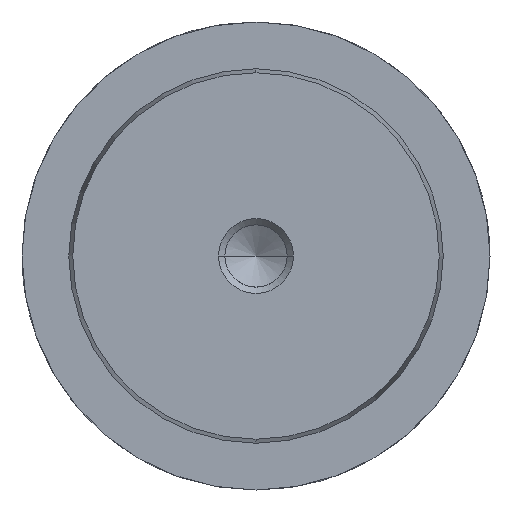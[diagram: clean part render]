
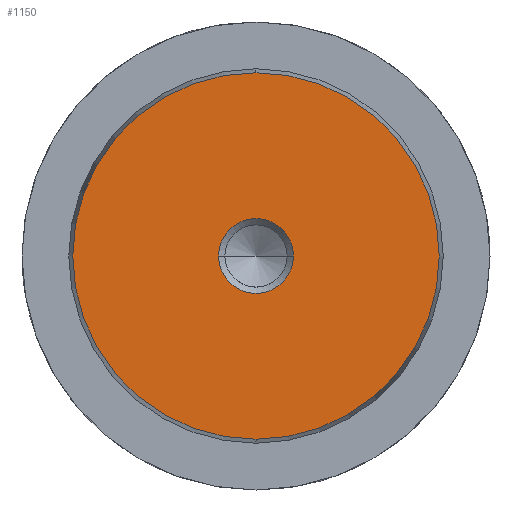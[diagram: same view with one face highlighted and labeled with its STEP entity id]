
A CAD part, left-side view. The second image highlights one B-rep face of the part: STEP entity #1150.
In plain terms, the highlighted planar face has unit normal (-1, 0, 0).
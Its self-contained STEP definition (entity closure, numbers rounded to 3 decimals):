
#1064=CARTESIAN_POINT('Vertex',(0.,0.,-19.578)) ;
#1067=CARTESIAN_POINT('Axis2P3D Location',(0.,0.,0.)) ;
#1071=CARTESIAN_POINT('Vertex',(0.,19.578,0.)) ;
#1074=CARTESIAN_POINT('Axis2P3D Location',(0.,0.,0.)) ;
#1078=CARTESIAN_POINT('Vertex',(0.,0.,19.578)) ;
#1100=CARTESIAN_POINT('Axis2P3D Location',(0.,0.,0.)) ;
#1104=CARTESIAN_POINT('Vertex',(0.,-19.578,0.)) ;
#1107=CARTESIAN_POINT('Axis2P3D Location',(0.,0.,0.)) ;
#1121=CARTESIAN_POINT('Axis2P3D Location',(0.,0.,0.)) ;
#1132=CARTESIAN_POINT('Axis2P3D Location',(0.,0.,0.)) ;
#1136=CARTESIAN_POINT('Vertex',(0.,4.,0.)) ;
#1138=CARTESIAN_POINT('Vertex',(0.,-4.,0.)) ;
#1141=CARTESIAN_POINT('Axis2P3D Location',(0.,0.,0.)) ;
#1068=DIRECTION('Axis2P3D Direction',(1.,0.,-0.)) ;
#1075=DIRECTION('Axis2P3D Direction',(1.,0.,-0.)) ;
#1101=DIRECTION('Axis2P3D Direction',(1.,0.,-0.)) ;
#1108=DIRECTION('Axis2P3D Direction',(1.,0.,-0.)) ;
#1122=DIRECTION('Axis2P3D Direction',(1.,0.,-0.)) ;
#1123=DIRECTION('Axis2P3D XDirection',(-0.,0.,-1.)) ;
#1133=DIRECTION('Axis2P3D Direction',(1.,0.,-0.)) ;
#1142=DIRECTION('Axis2P3D Direction',(1.,0.,-0.)) ;
#1069=AXIS2_PLACEMENT_3D('Circle Axis2P3D',#1067,#1068,$) ;
#1076=AXIS2_PLACEMENT_3D('Circle Axis2P3D',#1074,#1075,$) ;
#1102=AXIS2_PLACEMENT_3D('Circle Axis2P3D',#1100,#1101,$) ;
#1109=AXIS2_PLACEMENT_3D('Circle Axis2P3D',#1107,#1108,$) ;
#1124=AXIS2_PLACEMENT_3D('Plane Axis2P3D',#1121,#1122,#1123) ;
#1134=AXIS2_PLACEMENT_3D('Circle Axis2P3D',#1132,#1133,$) ;
#1143=AXIS2_PLACEMENT_3D('Circle Axis2P3D',#1141,#1142,$) ;
#1127=ORIENTED_EDGE('',*,*,#1073,.F.) ;
#1128=ORIENTED_EDGE('',*,*,#1111,.F.) ;
#1129=ORIENTED_EDGE('',*,*,#1106,.F.) ;
#1130=ORIENTED_EDGE('',*,*,#1080,.F.) ;
#1147=ORIENTED_EDGE('',*,*,#1140,.T.) ;
#1148=ORIENTED_EDGE('',*,*,#1145,.T.) ;
#1149=FACE_BOUND('',#1146,.T.) ;
#1150=ADVANCED_FACE('718-40x200',(#1131,#1149),#1125,.F.) ;
#1070=CIRCLE('generated circle',#1069,19.578) ;
#1077=CIRCLE('generated circle',#1076,19.578) ;
#1103=CIRCLE('generated circle',#1102,19.578) ;
#1110=CIRCLE('generated circle',#1109,19.578) ;
#1135=CIRCLE('generated circle',#1134,4.) ;
#1144=CIRCLE('generated circle',#1143,4.) ;
#1073=EDGE_CURVE('',#1065,#1072,#1070,.T.) ;
#1080=EDGE_CURVE('',#1072,#1079,#1077,.T.) ;
#1106=EDGE_CURVE('',#1079,#1105,#1103,.T.) ;
#1111=EDGE_CURVE('',#1105,#1065,#1110,.T.) ;
#1140=EDGE_CURVE('',#1137,#1139,#1135,.T.) ;
#1145=EDGE_CURVE('',#1139,#1137,#1144,.T.) ;
#1126=EDGE_LOOP('',(#1127,#1128,#1129,#1130)) ;
#1146=EDGE_LOOP('',(#1147,#1148)) ;
#1131=FACE_OUTER_BOUND('',#1126,.T.) ;
#1125=PLANE('Plane',#1124) ;
#1065=VERTEX_POINT('',#1064) ;
#1072=VERTEX_POINT('',#1071) ;
#1079=VERTEX_POINT('',#1078) ;
#1105=VERTEX_POINT('',#1104) ;
#1137=VERTEX_POINT('',#1136) ;
#1139=VERTEX_POINT('',#1138) ;
